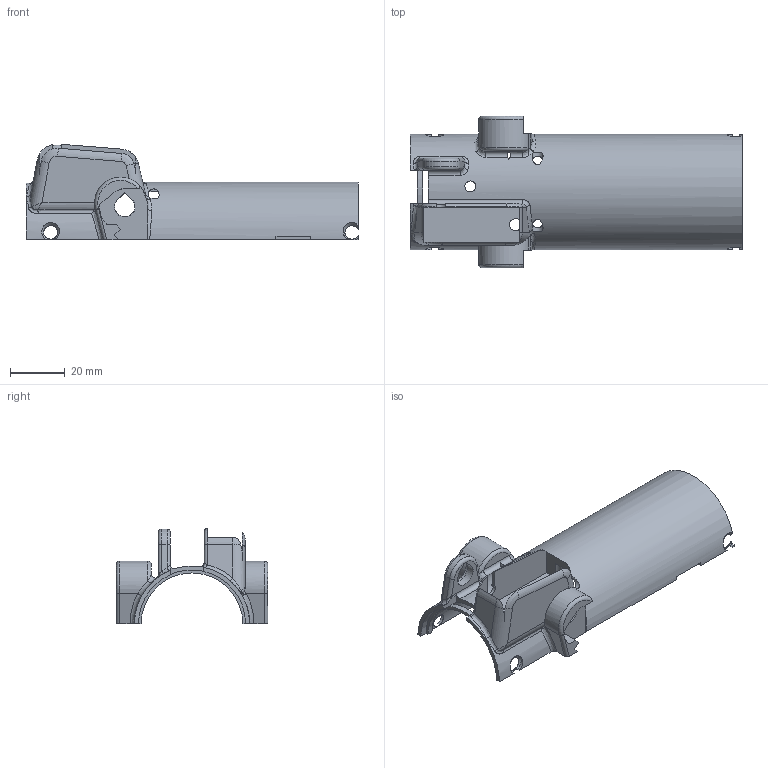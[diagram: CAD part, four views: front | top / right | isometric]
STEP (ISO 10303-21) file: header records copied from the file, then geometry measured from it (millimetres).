
FILE_DESCRIPTION(('Open CASCADE Model'),'2;1');
FILE_NAME('Open CASCADE Shape Model','2026-11-07T08:48:24',('Author'),( 'Open CASCADE'),'Open CASCADE STEP processor 8.0','build123d', 'Unknown');
FILE_SCHEMA(('AUTOMOTIVE_DESIGN { 1 0 10303 214 1 1 1 1 }'));
Length unit declared in the file: millimetre
Products named in the file (1): COMPOUND
Bounding box: 120.97 x 55.2 x 34.77 mm (x, y, z)
Volume: 18688.8 mm3; surface area: 20240.9 mm2
Topology: 1 solids, 1 shells, 210 faces, 622 edges, 401 vertices
Faces by surface type: plane 116, cylinder 50, bspline 29, torus 7, cone 4, revolution 4
Full cylindrical faces by diameter (mm): 4 x3, 4.4 x1
Entity records: 31424 total; most frequent: CARTESIAN_POINT 20519, DIRECTION 1602, ORIENTED_EDGE 1240, PCURVE 1240, DEFINITIONAL_REPRESENTATION 1240, LINE 923, VECTOR 923, B_SPLINE_CURVE_WITH_KNOTS 672
